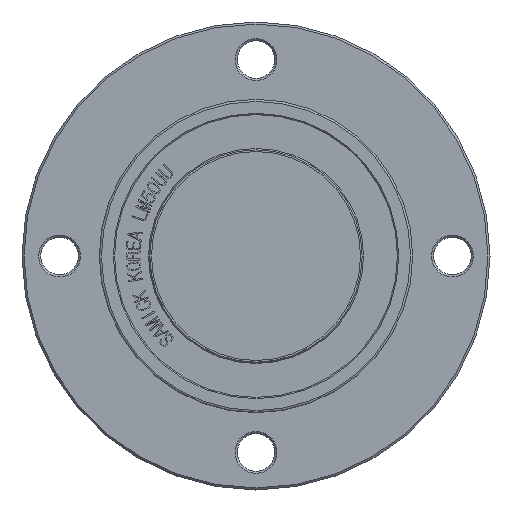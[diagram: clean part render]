
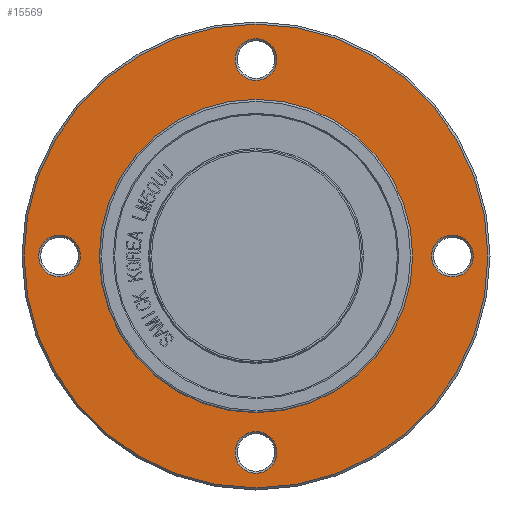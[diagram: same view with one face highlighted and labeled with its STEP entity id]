
A CAD part, front view. The second image highlights one B-rep face of the part: STEP entity #15569.
In plain terms, the highlighted planar face has unit normal (0, -1, 0).
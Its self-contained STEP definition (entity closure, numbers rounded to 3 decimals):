
#2239=FACE_BOUND('',#3395,.T.);
#2240=FACE_BOUND('',#3396,.T.);
#2241=FACE_BOUND('',#3397,.T.);
#2242=FACE_BOUND('',#3398,.T.);
#2243=FACE_BOUND('',#3399,.T.);
#2299=PLANE('',#16462);
#2530=FACE_OUTER_BOUND('',#3394,.T.);
#3394=EDGE_LOOP('',(#10732,#10733));
#3395=EDGE_LOOP('',(#10734));
#3396=EDGE_LOOP('',(#10735));
#3397=EDGE_LOOP('',(#10736,#10737));
#3398=EDGE_LOOP('',(#10738));
#3399=EDGE_LOOP('',(#10739));
#6598=CIRCLE('',#16460,5.);
#6600=CIRCLE('',#16463,55.5);
#6601=CIRCLE('',#16464,55.5);
#6602=CIRCLE('',#16465,5.);
#6603=CIRCLE('',#16466,5.);
#6604=CIRCLE('',#16467,37.5);
#6605=CIRCLE('',#16468,37.5);
#6606=CIRCLE('',#16469,5.);
#6680=VERTEX_POINT('',#18639);
#6682=VERTEX_POINT('',#18645);
#6683=VERTEX_POINT('',#18646);
#6684=VERTEX_POINT('',#18649);
#6685=VERTEX_POINT('',#18651);
#6686=VERTEX_POINT('',#18653);
#6687=VERTEX_POINT('',#18654);
#6688=VERTEX_POINT('',#18657);
#8302=EDGE_CURVE('',#6680,#6680,#6598,.T.);
#8305=EDGE_CURVE('',#6682,#6683,#6600,.T.);
#8306=EDGE_CURVE('',#6683,#6682,#6601,.T.);
#8307=EDGE_CURVE('',#6684,#6684,#6602,.T.);
#8308=EDGE_CURVE('',#6685,#6685,#6603,.T.);
#8309=EDGE_CURVE('',#6686,#6687,#6604,.T.);
#8310=EDGE_CURVE('',#6687,#6686,#6605,.T.);
#8311=EDGE_CURVE('',#6688,#6688,#6606,.T.);
#10732=ORIENTED_EDGE('',*,*,#8305,.T.);
#10733=ORIENTED_EDGE('',*,*,#8306,.T.);
#10734=ORIENTED_EDGE('',*,*,#8307,.F.);
#10735=ORIENTED_EDGE('',*,*,#8308,.F.);
#10736=ORIENTED_EDGE('',*,*,#8309,.F.);
#10737=ORIENTED_EDGE('',*,*,#8310,.F.);
#10738=ORIENTED_EDGE('',*,*,#8311,.F.);
#10739=ORIENTED_EDGE('',*,*,#8302,.F.);
#15569=ADVANCED_FACE('',(#2530,#2239,#2240,#2241,#2242,#2243),#2299,.T.);
#16460=AXIS2_PLACEMENT_3D('',#18640,#16821,#16822);
#16462=AXIS2_PLACEMENT_3D('',#18644,#16826,#16827);
#16463=AXIS2_PLACEMENT_3D('',#18647,#16828,#16829);
#16464=AXIS2_PLACEMENT_3D('',#18648,#16830,#16831);
#16465=AXIS2_PLACEMENT_3D('',#18650,#16832,#16833);
#16466=AXIS2_PLACEMENT_3D('',#18652,#16834,#16835);
#16467=AXIS2_PLACEMENT_3D('',#18655,#16836,#16837);
#16468=AXIS2_PLACEMENT_3D('',#18656,#16838,#16839);
#16469=AXIS2_PLACEMENT_3D('',#18658,#16840,#16841);
#16821=DIRECTION('center_axis',(0.,-1.,0.));
#16822=DIRECTION('ref_axis',(1.,0.,0.));
#16826=DIRECTION('center_axis',(0.,-1.,0.));
#16827=DIRECTION('ref_axis',(0.,0.,-1.));
#16828=DIRECTION('center_axis',(0.,-1.,0.));
#16829=DIRECTION('ref_axis',(1.,0.,0.));
#16830=DIRECTION('center_axis',(0.,-1.,0.));
#16831=DIRECTION('ref_axis',(1.,0.,0.));
#16832=DIRECTION('center_axis',(0.,-1.,0.));
#16833=DIRECTION('ref_axis',(0.,0.,-1.));
#16834=DIRECTION('center_axis',(0.,-1.,0.));
#16835=DIRECTION('ref_axis',(0.,0.,
1.));
#16836=DIRECTION('center_axis',(0.,-1.,0.));
#16837=DIRECTION('ref_axis',(1.,0.,0.));
#16838=DIRECTION('center_axis',(0.,-1.,0.));
#16839=DIRECTION('ref_axis',(1.,0.,0.));
#16840=DIRECTION('center_axis',(0.,-1.,0.));
#16841=DIRECTION('ref_axis',(-1.,0.,0.));
#18639=CARTESIAN_POINT('',(42.,70.,0.));
#18640=CARTESIAN_POINT('Origin',(47.,70.,0.));
#18644=CARTESIAN_POINT('Origin',(37.5,70.,0.));
#18645=CARTESIAN_POINT('',(55.5,70.,0.));
#18646=CARTESIAN_POINT('',(-55.5,70.,0.));
#18647=CARTESIAN_POINT('Origin',(0.,70.,0.));
#18648=CARTESIAN_POINT('Origin',(0.,70.,0.));
#18649=CARTESIAN_POINT('',(0.,70.,-42.));
#18650=CARTESIAN_POINT('Origin',(0.,70.,-47.));
#18651=CARTESIAN_POINT('',(0.,70.,42.));
#18652=CARTESIAN_POINT('Origin',(0.,70.,47.));
#18653=CARTESIAN_POINT('',(37.5,70.,0.));
#18654=CARTESIAN_POINT('',(-37.5,70.,0.));
#18655=CARTESIAN_POINT('Origin',(0.,70.,0.));
#18656=CARTESIAN_POINT('Origin',(0.,70.,0.));
#18657=CARTESIAN_POINT('',(-42.,70.,0.));
#18658=CARTESIAN_POINT('Origin',(-47.,70.,0.));
